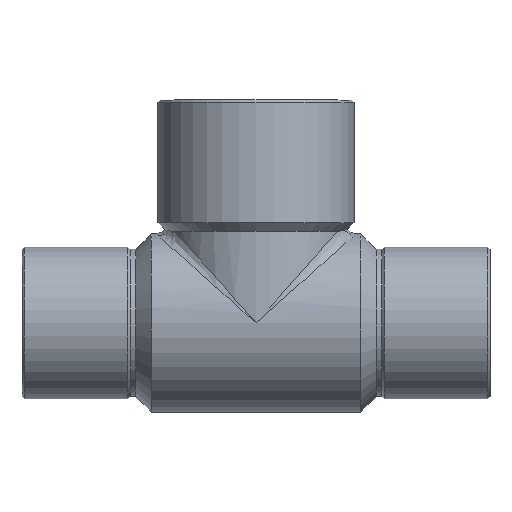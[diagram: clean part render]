
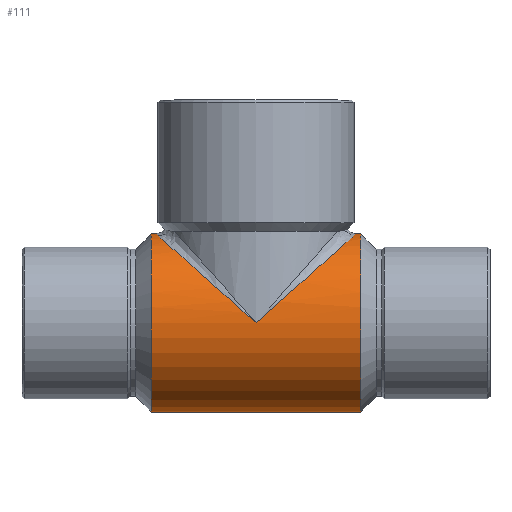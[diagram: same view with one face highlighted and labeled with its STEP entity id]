
A CAD part, top view. The second image highlights one B-rep face of the part: STEP entity #111.
In plain terms, the highlighted cylindrical face has radius 8 mm (diameter 16 mm), a partial arc.
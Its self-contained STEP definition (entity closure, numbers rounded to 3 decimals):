
#44=CARTESIAN_POINT('',(0.,0.,0.0));
#45=DIRECTION('',(1.0,0.,0.0));
#46=DIRECTION('',(0.0,1.0,0.0));
#47=AXIS2_PLACEMENT_3D('',#44,#45,#46);
#48=CYLINDRICAL_SURFACE('',#47,8.);
#49=CARTESIAN_POINT('',(-9.4,8.0,0.));
#50=VERTEX_POINT('',#49);
#51=CARTESIAN_POINT('',(-9.,8.,0.));
#52=VERTEX_POINT('',#51);
#53=CARTESIAN_POINT('',(-9.4,8.0,0.));
#54=DIRECTION('',(1.0,0.0,0.0));
#55=VECTOR('',#54,0.4);
#56=LINE('',#53,#55);
#57=EDGE_CURVE('',#50,#52,#56,.T.);
#58=ORIENTED_EDGE('',*,*,#57,.F.);
#59=CARTESIAN_POINT('',(-9.4,-8.,0.));
#60=VERTEX_POINT('',#59);
#61=CARTESIAN_POINT('',(-9.4,0.,0.0));
#62=DIRECTION('',(1.0,0.0,0.0));
#63=DIRECTION('',(0.0,1.0,0.0));
#64=AXIS2_PLACEMENT_3D('',#61,#62,#63);
#65=CIRCLE('',#64,8.);
#66=EDGE_CURVE('',#50,#60,#65,.T.);
#67=ORIENTED_EDGE('',*,*,#66,.T.);
#68=CARTESIAN_POINT('',(9.4,-8.,0.));
#69=VERTEX_POINT('',#68);
#70=CARTESIAN_POINT('',(9.4,-8.,0.));
#71=DIRECTION('',(-1.0,0.0,0.0));
#72=VECTOR('',#71,18.8);
#73=LINE('',#70,#72);
#74=EDGE_CURVE('',#69,#60,#73,.T.);
#75=ORIENTED_EDGE('',*,*,#74,.F.);
#76=CARTESIAN_POINT('',(9.4,8.,0.));
#77=VERTEX_POINT('',#76);
#78=CARTESIAN_POINT('',(9.4,0.,0.0));
#79=DIRECTION('',(-1.0,0.0,0.0));
#80=DIRECTION('',(0.0,1.0,0.0));
#81=AXIS2_PLACEMENT_3D('',#78,#79,#80);
#82=CIRCLE('',#81,8.);
#83=EDGE_CURVE('',#69,#77,#82,.T.);
#84=ORIENTED_EDGE('',*,*,#83,.T.);
#85=CARTESIAN_POINT('',(9.,8.,0.));
#86=VERTEX_POINT('',#85);
#87=CARTESIAN_POINT('',(9.,8.,0.));
#88=DIRECTION('',(1.0,0.0,0.0));
#89=VECTOR('',#88,0.4);
#90=LINE('',#87,#89);
#91=EDGE_CURVE('',#86,#77,#90,.T.);
#92=ORIENTED_EDGE('',*,*,#91,.F.);
#93=CARTESIAN_POINT('',(0.,0.,8.));
#94=VERTEX_POINT('',#93);
#95=CARTESIAN_POINT('',(0.,0.,0.0));
#96=DIRECTION('',(-0.664,0.747,0.));
#97=DIRECTION('',(0.747,0.664,0.0));
#98=AXIS2_PLACEMENT_3D('',#95,#96,#97);
#99=ELLIPSE('',#98,12.042,8.);
#100=EDGE_CURVE('',#94,#86,#99,.T.);
#101=ORIENTED_EDGE('',*,*,#100,.F.);
#102=CARTESIAN_POINT('',(0.,0.,0.0));
#103=DIRECTION('',(0.664,0.747,0.));
#104=DIRECTION('',(-0.747,0.664,0.0));
#105=AXIS2_PLACEMENT_3D('',#102,#103,#104);
#106=ELLIPSE('',#105,12.042,8.);
#107=EDGE_CURVE('',#52,#94,#106,.T.);
#108=ORIENTED_EDGE('',*,*,#107,.F.);
#109=EDGE_LOOP('',(#58,#67,#75,#84,#92,#101,#108));
#110=FACE_OUTER_BOUND('',#109,.T.);
#111=ADVANCED_FACE('',(#110),#48,.T.);
